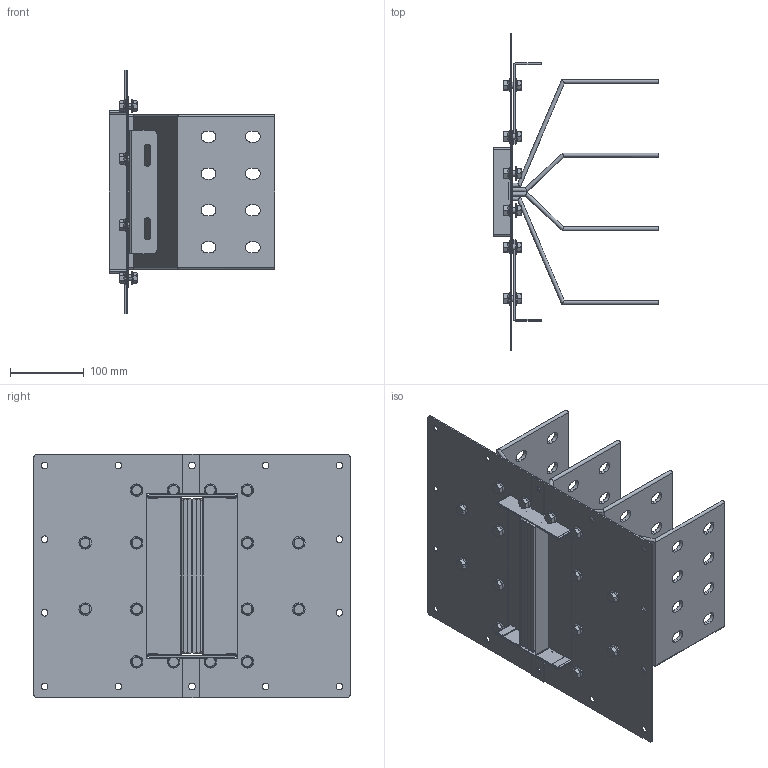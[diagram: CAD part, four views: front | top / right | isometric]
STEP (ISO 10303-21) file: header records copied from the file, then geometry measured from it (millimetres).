
FILE_DESCRIPTION(('CATIA V5 STEP','CAx-IF Rec.Pracs.--- Model Styling and Organization---1.5--- 2016-08-15','CAx-IF Rec.Pracs.---Supplemental Geometry---1.0---2011-11-01','CAx-IF Rec.Pracs.--- Composite Materials ---1.1---2010-07-15'),'2;1');
FILE_NAME('K:\COSCN 2011\32372311_RiduzioneSezioniBarre\03_Studio\__Modelli semplificati\XCP_UB semplificati per studi\XCP-S_UB_4C_Pe_STD_Assieme\Al\XCP-S_UB_4C_Pe_S_Assieme - 2000A Al\XCP-S_UB_4C_Pe_S_Assieme - 2000A Al.stp','2025-05-12T12:32:46+00:00',('Utente Bticino'),('Bticino S.p.A.'),'CATIA Version 5-6 Release 2020 SP5','CATIA V5 STEP AP214 v2','none');
FILE_SCHEMA(('AUTOMOTIVE_DESIGN { 1 0 10303 214 1 1 1 1 }'));
Length unit declared in the file: millimetre
Products named in the file (7): XCP-S_UB_4C_Pe_S_Assieme - 2000A Al; XCP-S_UB_4C_Pe_S_PaccoBarre_2000A Al; XCP-S_UB_4C_Pe_S_Lamiere_2000A Al; Viteria UB H130; Ass Vite+dado M8; Steel hex flanged SCREW M12x16; Steel hex flanged NUT M8
Assembly tree (21 placements, depth 4):
  XCP-S_UB_4C_Pe_S_Assieme - 2000A Al
    XCP-S_UB_4C_Pe_S_PaccoBarre_2000A Al
    XCP-S_UB_4C_Pe_S_Lamiere_2000A Al
    Viteria UB H130
      Ass Vite+dado M8  x16
        Steel hex flanged SCREW M12x16
        Steel hex flanged NUT M8
Bounding box: 225 x 430 x 330 mm (x, y, z)
Volume: 1662292.2 mm3; surface area: 967203.9 mm2
Topology: 44 solids, 44 shells, 1204 faces, 2992 edges, 1908 vertices
Faces by surface type: plane 512, cylinder 404, cone 128, bspline 128, torus 32
Entity records: 16794 total; most frequent: CARTESIAN_POINT 3794, ORIENTED_EDGE 2804, DIRECTION 2192, EDGE_CURVE 1402, VERTEX_POINT 918, AXIS2_PLACEMENT_3D 912, VECTOR 852, LINE 852
